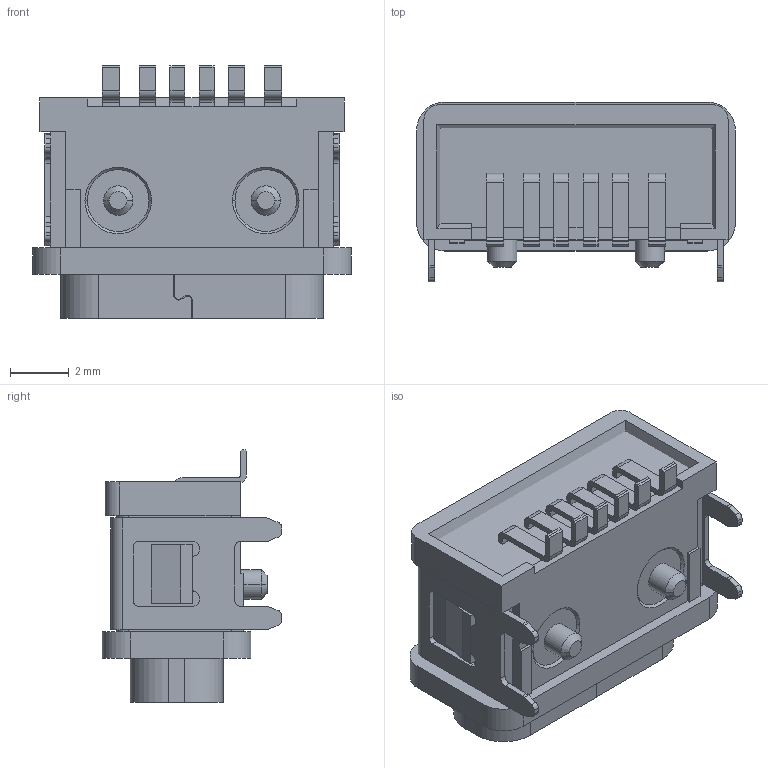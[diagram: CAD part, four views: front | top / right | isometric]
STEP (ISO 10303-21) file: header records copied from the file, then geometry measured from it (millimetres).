
FILE_DESCRIPTION((''),'2;1');
FILE_NAME('1020003','2022-06-18T16:00:51',('Administrator'),(''),'CREO PARAMETRIC BY PTC INC, 2019224','CREO PARAMETRIC BY PTC INC, 2019224','');
FILE_SCHEMA(('CONFIG_CONTROL_DESIGN'));
Length unit declared in the file: millimetre
Products named in the file (1): 1020003
Bounding box: 10.84 x 6.11 x 8.6 mm (x, y, z)
Volume: 135.1 mm3; surface area: 974.4 mm2
Topology: 2 solids, 3 shells, 864 faces, 2418 edges, 1596 vertices
Faces by surface type: plane 668, cylinder 172, cone 24
Entity records: 27617 total; most frequent: CARTESIAN_POINT 4928, ORIENTED_EDGE 4822, DIRECTION 4508, EDGE_CURVE 2418, VECTOR 2034, LINE 2034, VERTEX_POINT 1596, AXIS2_PLACEMENT_3D 1237
